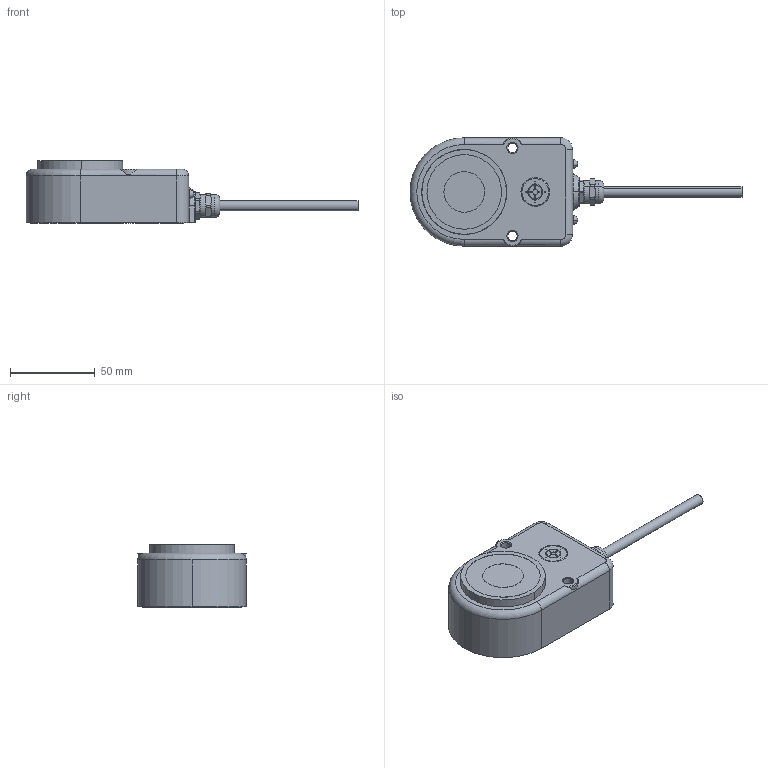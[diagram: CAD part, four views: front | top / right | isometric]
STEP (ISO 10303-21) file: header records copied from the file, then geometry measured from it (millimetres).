
FILE_DESCRIPTION (( 'STEP AP203' ), '1' );
FILE_NAME ('460-Switch MGL-2SS (step format).STEP', '2014-07-30T12:10:02', ( '' ), ( '' ), 'SwSTEP 2.0', 'SolidWorks 2013', '' );
FILE_SCHEMA (( 'CONFIG_CONTROL_DESIGN' ));
Length unit declared in the file: millimetre
Products named in the file (1): 460-Switch MGL-2SS (step format)
Bounding box: 196 x 64 x 37 mm (x, y, z)
Volume: 122848 mm3; surface area: 58979.4 mm2
Topology: 13 solids, 13 shells, 988 faces, 2337 edges, 1359 vertices
Faces by surface type: cylinder 406, plane 287, torus 158, cone 84, sphere 36, bspline 17
Entity records: 28715 total; most frequent: CARTESIAN_POINT 5722, DIRECTION 5226, ORIENTED_EDGE 4566, EDGE_CURVE 2283, AXIS2_PLACEMENT_3D 2077, VERTEX_POINT 1355, CIRCLE 1105, LINE 1072
